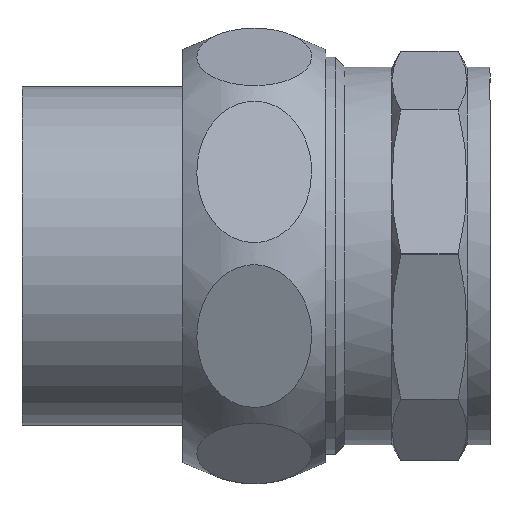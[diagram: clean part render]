
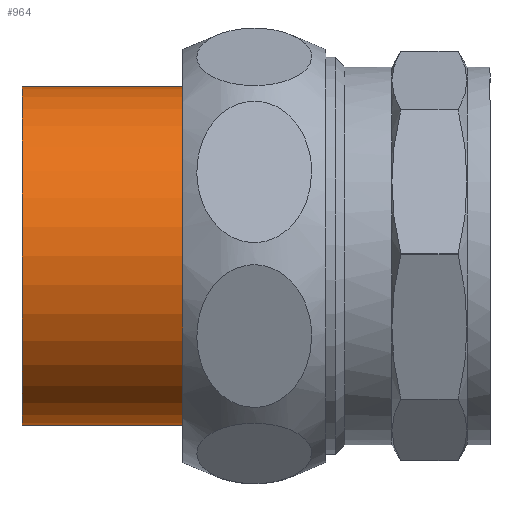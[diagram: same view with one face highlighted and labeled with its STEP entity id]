
A CAD part, front view. The second image highlights one B-rep face of the part: STEP entity #964.
In plain terms, the highlighted cylindrical face has radius 29.5 mm (diameter 59 mm), a full revolution.
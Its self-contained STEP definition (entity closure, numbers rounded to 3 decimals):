
#203=CYLINDRICAL_SURFACE('',#1041,29.5);
#224=FACE_BOUND('',#334,.T.);
#261=FACE_OUTER_BOUND('',#333,.T.);
#333=EDGE_LOOP('',(#717));
#334=EDGE_LOOP('',(#718));
#439=CIRCLE('',#1039,29.5);
#441=CIRCLE('',#1042,29.5);
#503=VERTEX_POINT('',#1478);
#505=VERTEX_POINT('',#1483);
#592=EDGE_CURVE('',#503,#503,#439,.T.);
#594=EDGE_CURVE('',#505,#505,#441,.T.);
#717=ORIENTED_EDGE('',*,*,#594,.T.);
#718=ORIENTED_EDGE('',*,*,#592,.F.);
#964=ADVANCED_FACE('',(#261,#224),#203,.T.);
#1039=AXIS2_PLACEMENT_3D('',#1479,#1182,#1183);
#1041=AXIS2_PLACEMENT_3D('',#1482,#1186,#1187);
#1042=AXIS2_PLACEMENT_3D('',#1484,#1188,#1189);
#1182=DIRECTION('center_axis',(1.,0.,0.));
#1183=DIRECTION('ref_axis',(0.,-1.,0.));
#1186=DIRECTION('center_axis',(1.,0.,0.));
#1187=DIRECTION('ref_axis',(0.,1.,0.));
#1188=DIRECTION('center_axis',(1.,0.,0.));
#1189=DIRECTION('ref_axis',(0.,1.,0.));
#1478=CARTESIAN_POINT('',(10.5,29.5,0.));
#1479=CARTESIAN_POINT('Origin',(10.5,0.,0.));
#1482=CARTESIAN_POINT('Origin',(-5.5,0.,0.));
#1483=CARTESIAN_POINT('',(-22.,29.5,0.));
#1484=CARTESIAN_POINT('Origin',(-22.,0.,0.));
